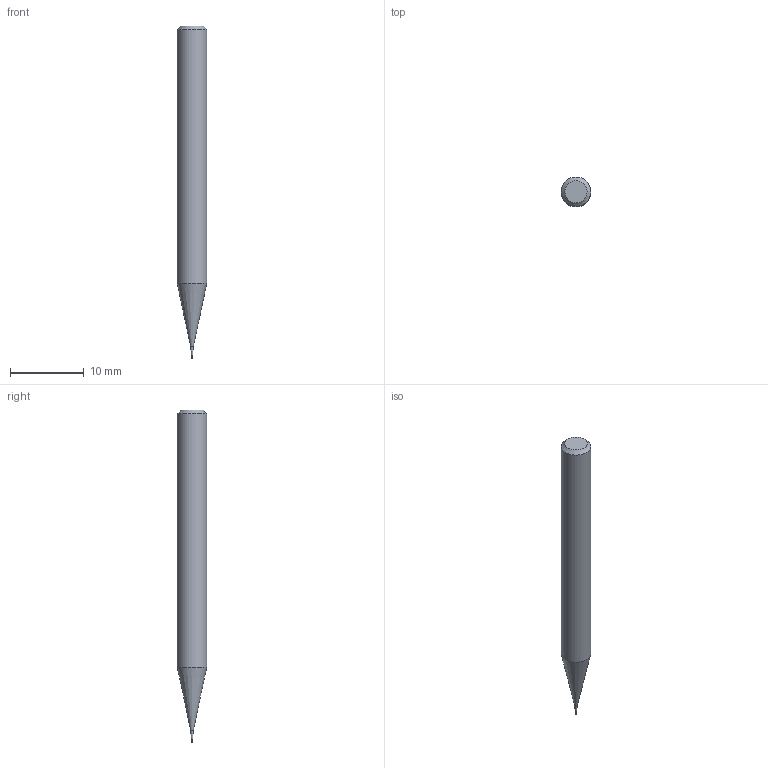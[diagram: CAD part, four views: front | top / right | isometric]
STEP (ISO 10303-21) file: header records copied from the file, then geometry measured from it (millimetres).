
FILE_DESCRIPTION((''),'2;1');
FILE_NAME('C:\Users\nsx150\AppData\Local\Temp\Mastercam 2021\YKS1SUSFZB\TEMP.step','2025-06-23T14:03:04',(''),(''),'STEP Write','Mastercam 2021 ... CNC Software, Inc.','');
FILE_SCHEMA(('AUTOMOTIVE_DESIGN'));
Length unit declared in the file: millimetre
Products named in the file (1): None
Bounding box: 4 x 4 x 45 mm (x, y, z)
Volume: 476.5 mm3; surface area: 508.3 mm2
Topology: 2 solids, 2 shells, 11 faces, 16 edges, 9 vertices
Faces by surface type: plane 4, cylinder 3, cone 3, torus 1
Full cylindrical faces by diameter (mm): 0.192 x1, 0.2 x1, 4 x1
Entity records: 253 total; most frequent: DIRECTION 44, CARTESIAN_POINT 31, AXIS2_PLACEMENT_3D 22, ORIENTED_EDGE 18, EDGE_LOOP 18, STYLED_ITEM 14, ADVANCED_FACE 11, FACE_BOUND 11
